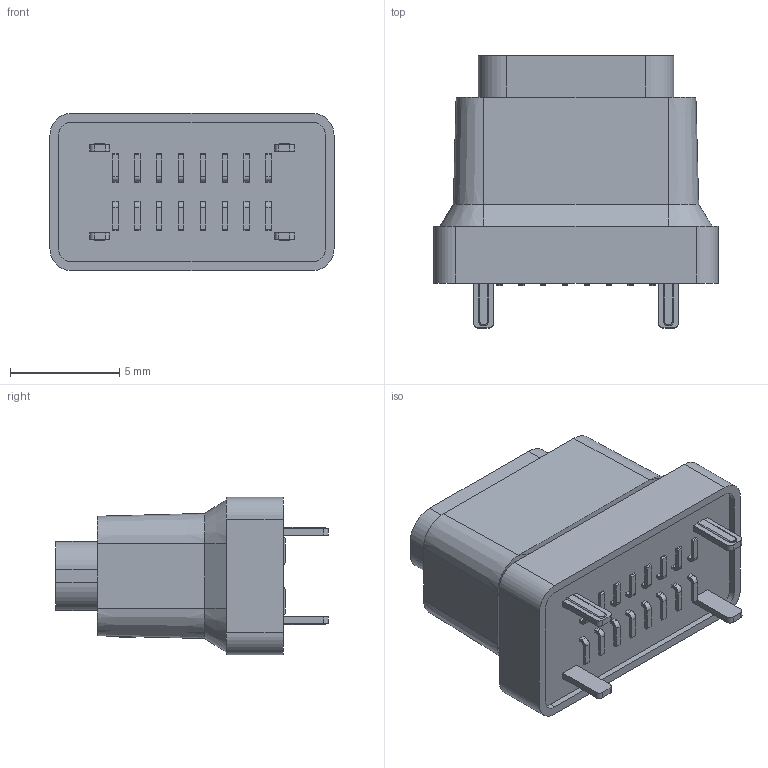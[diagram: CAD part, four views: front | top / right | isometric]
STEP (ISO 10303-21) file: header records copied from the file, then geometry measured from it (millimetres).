
FILE_DESCRIPTION (( 'STEP AP203' ), '1' );
FILE_NAME ('U5322-16PN10.4LF .STEP', '2026-09-01T03:09:44', ( '' ), ( '' ), 'SwSTEP 2.0', 'SolidWorks 2024', '' );
FILE_SCHEMA (( 'CONFIG_CONTROL_DESIGN' ));
Length unit declared in the file: millimetre
Products named in the file (1): U5322-16PN10.4LF 
Bounding box: 13 x 12.45 x 7.2 mm (x, y, z)
Volume: 537.9 mm3; surface area: 935.7 mm2
Topology: 1 solids, 1 shells, 578 faces, 1608 edges, 1066 vertices
Faces by surface type: plane 426, cylinder 103, bspline 25, cone 16, torus 8
Entity records: 19781 total; most frequent: CARTESIAN_POINT 4817, ORIENTED_EDGE 3216, DIRECTION 2906, EDGE_CURVE 1608, LINE 1300, VECTOR 1300, VERTEX_POINT 1066, AXIS2_PLACEMENT_3D 803
